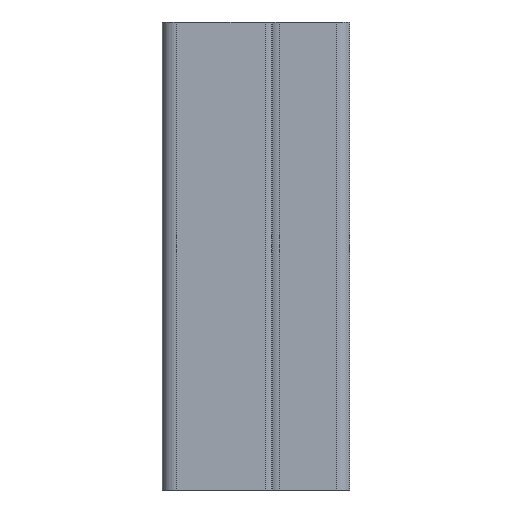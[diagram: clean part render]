
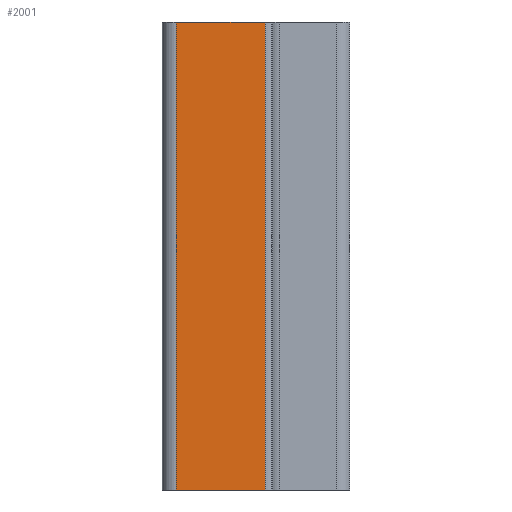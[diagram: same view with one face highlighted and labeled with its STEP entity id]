
A CAD part, front view. The second image highlights one B-rep face of the part: STEP entity #2001.
In plain terms, the highlighted planar face has unit normal (0, -1, 0).
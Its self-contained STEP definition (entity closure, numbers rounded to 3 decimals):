
#71 = ORIENTED_EDGE ( 'NONE', *, *, #1186, .T. ) ;
#146 = CARTESIAN_POINT ( 'NONE',  ( -9.5, -12.5, 100. ) ) ;
#226 = CARTESIAN_POINT ( 'NONE',  ( -9.5, -12.5, 0. ) ) ;
#228 = VECTOR ( 'NONE', #912, 1000. ) ;
#229 = ORIENTED_EDGE ( 'NONE', *, *, #785, .T. ) ;
#239 = LINE ( 'NONE', #365, #770 ) ;
#281 = LINE ( 'NONE', #226, #228 ) ;
#365 = CARTESIAN_POINT ( 'NONE',  ( -9.5, -12.5, 100. ) ) ;
#515 = EDGE_CURVE ( 'NONE', #1445, #569, #281, .T. ) ;
#569 = VERTEX_POINT ( 'NONE', #1267 ) ;
#571 = LINE ( 'NONE', #1165, #1126 ) ;
#770 = VECTOR ( 'NONE', #1519, 1000. ) ;
#785 = EDGE_CURVE ( 'NONE', #1841, #569, #571, .T. ) ;
#884 = DIRECTION ( 'NONE',  ( 0., 1., 0. ) ) ;
#912 = DIRECTION ( 'NONE',  ( -1., 0., 0. ) ) ;
#1126 = VECTOR ( 'NONE', #2033, 1000. ) ;
#1165 = CARTESIAN_POINT ( 'NONE',  ( -9.5, -12.5, 100. ) ) ;
#1186 = EDGE_CURVE ( 'NONE', #1604, #1841, #239, .T. ) ;
#1193 = LINE ( 'NONE', #2172, #2176 ) ;
#1267 = CARTESIAN_POINT ( 'NONE',  ( -9.5, -12.5, 0. ) ) ;
#1278 = ORIENTED_EDGE ( 'NONE', *, *, #515, .F. ) ;
#1376 = EDGE_CURVE ( 'NONE', #1604, #1445, #1193, .T. ) ;
#1394 = CARTESIAN_POINT ( 'NONE',  ( -9.5, -12.5, 100. ) ) ;
#1418 = CARTESIAN_POINT ( 'NONE',  ( 9.5, -12.5, 0. ) ) ;
#1445 = VERTEX_POINT ( 'NONE', #1418 ) ;
#1448 = CARTESIAN_POINT ( 'NONE',  ( 9.5, -12.5, 100. ) ) ;
#1519 = DIRECTION ( 'NONE',  ( -1., 0., 0. ) ) ;
#1554 = ORIENTED_EDGE ( 'NONE', *, *, #1376, .F. ) ;
#1563 = PLANE ( 'NONE',  #1991 ) ;
#1604 = VERTEX_POINT ( 'NONE', #1448 ) ;
#1841 = VERTEX_POINT ( 'NONE', #146 ) ;
#1991 = AXIS2_PLACEMENT_3D ( 'NONE', #1394, #884, #2099 ) ;
#2001 = ADVANCED_FACE ( 'NONE', ( #2158 ), #1563, .F. ) ;
#2014 = DIRECTION ( 'NONE',  ( 0., 0., -1. ) ) ;
#2033 = DIRECTION ( 'NONE',  ( 0., 0., -1. ) ) ;
#2092 = EDGE_LOOP ( 'NONE', ( #1278, #1554, #71, #229 ) ) ;
#2099 = DIRECTION ( 'NONE',  ( 1., 0., 0. ) ) ;
#2158 = FACE_OUTER_BOUND ( 'NONE', #2092, .T. ) ;
#2172 = CARTESIAN_POINT ( 'NONE',  ( 9.5, -12.5, 100. ) ) ;
#2176 = VECTOR ( 'NONE', #2014, 1000. ) ;
